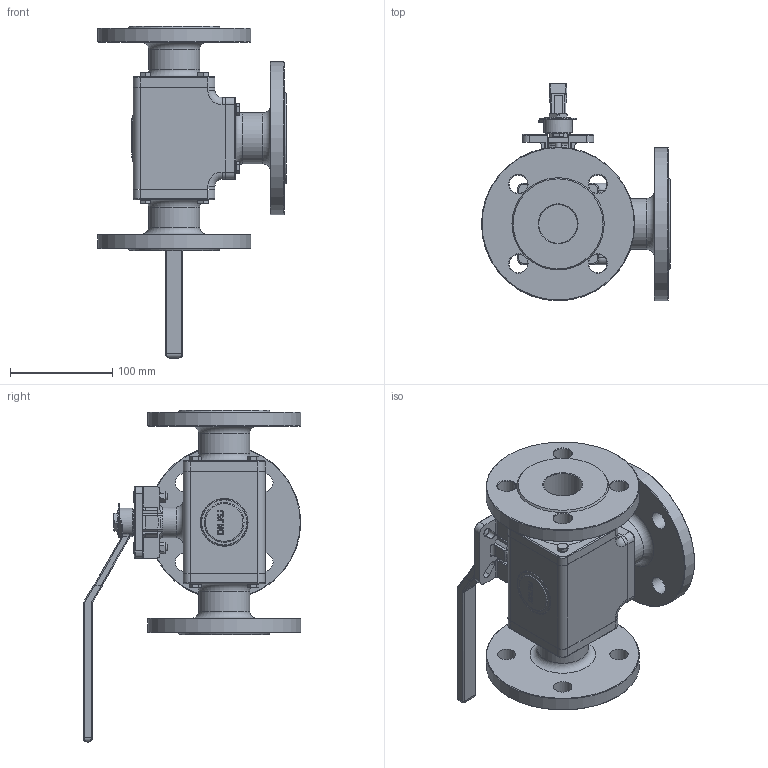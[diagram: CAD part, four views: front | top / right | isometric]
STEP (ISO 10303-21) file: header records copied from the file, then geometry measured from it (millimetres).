
FILE_DESCRIPTION(('STEP AP242'), '1');
FILE_NAME('BV3232P(4pc)-FP-3WL-F-ISO-H Êðàí øàðîâîé DN.ru Äó40 Ðó16', '', ('UNSPECIFIED'), ('UNSPECIFIED'), 'C3D Converter', 'C3D Toolkit', '');
FILE_SCHEMA(('AP242_MANAGED_MODEL_BASED_3D_ENGINEERING_MIM_LF { 1 0 10303 442 1 1 4 }'));
Length unit declared in the file: millimetre
Products named in the file (1): BV3232P(4pc)-FP-3WL-F-ISO-H
Bounding box: 185 x 213 x 325 mm (x, y, z)
Volume: 1774579.5 mm3; surface area: 279383.2 mm2
Topology: 1 solids, 14 shells, 925 faces, 2240 edges, 1393 vertices
Faces by surface type: plane 474, cylinder 214, cone 134, bspline 61, torus 42
Full cylindrical faces by diameter (mm): 1.119 x2, 2 x1, 6 x28, 7 x12, 10 x14, 18 x12, 25 x1, 28 x1, 30 x4, 38 x3, 50 x3, 150 x3
Entity records: 44197 total; most frequent: CARTESIAN_POINT 18914, ORIENTED_EDGE 4228, DIRECTION 4128, EDGE_CURVE 2114, AXIS2_PLACEMENT_3D 1551, VERTEX_POINT 1393, EDGE_LOOP 1193, LINE 1026
